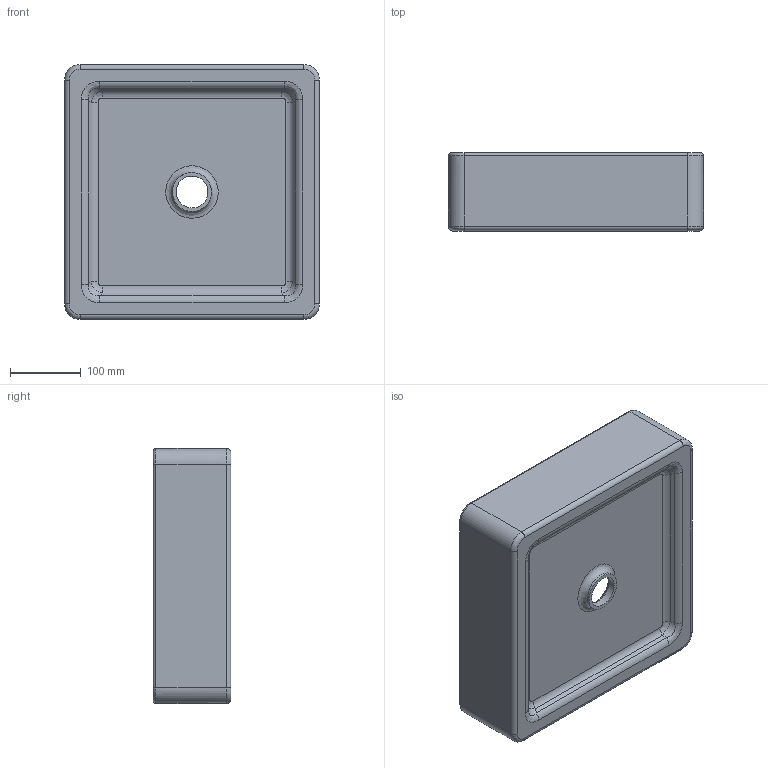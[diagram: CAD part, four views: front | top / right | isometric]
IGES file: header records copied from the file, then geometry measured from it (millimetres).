
Global section: file name: c0c4e909-37ab-4931-a4ae-77bf3fd5f9b5.zip; native system: unknown; preprocessor: unknown; author: unknown; organization: unknown; date: 20200702.115304; units: millimetre
Bounding box: 360 x 110 x 360 mm (x, y, z)
Volume: 4159733.5 mm3; surface area: 488772.3 mm2
Topology: 1 solids, 1 shells, 88 faces, 202 edges, 118 vertices
Faces by surface type: bspline 88
